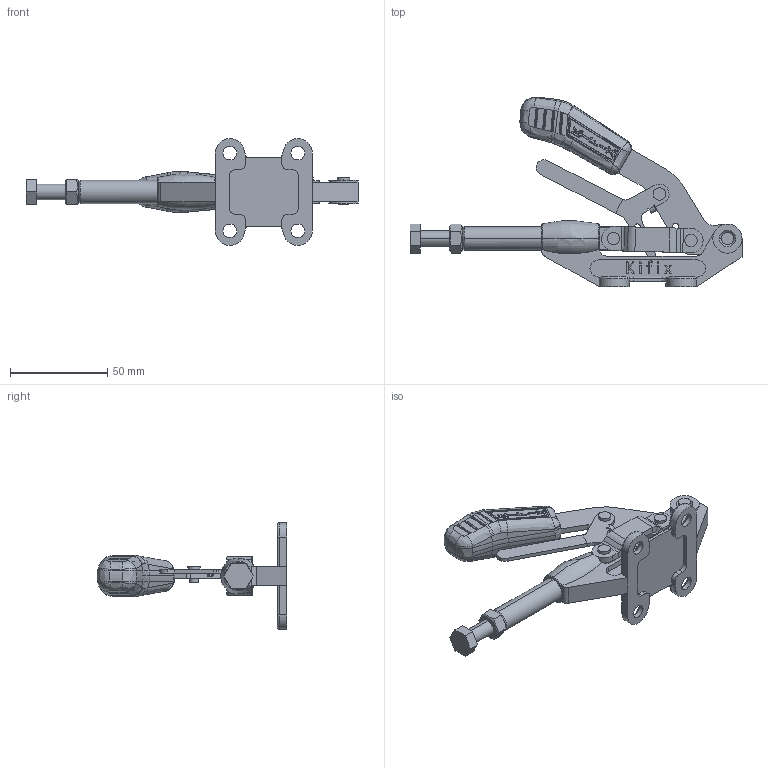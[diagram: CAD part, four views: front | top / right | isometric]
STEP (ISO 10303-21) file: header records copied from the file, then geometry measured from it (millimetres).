
FILE_DESCRIPTION (( 'STEP AP203' ), '1' );
FILE_NAME ('KF-057 TR.STEP', '2019-01-11T11:40:53', ( 'Ricardo' ), ( '' ), 'SwSTEP 2.0', 'SolidWorks 2018', '' );
FILE_SCHEMA (( 'CONFIG_CONTROL_DESIGN' ));
Length unit declared in the file: millimetre
Products named in the file (12): 07.60005; 06.50006; 12.50020; 11.50002; PP-M8; 02.30009; 18.10019; 01.10118; 06.50024; 03.20037; KF-057 TR; 08.10003
Assembly tree (14 placements, depth 3):
  KF-057 TR
    02.30009
    01.10118
    03.20037
    08.10003  x2
    07.60005
    06.50006  x3
    PP-M8
      12.50020
      11.50002
    18.10019
    06.50024
Bounding box: 170.88 x 97.61 x 54.98 mm (x, y, z)
Volume: 59940.7 mm3; surface area: 37641.7 mm2
Topology: 14 solids, 14 shells, 1178 faces, 3007 edges, 1884 vertices
Faces by surface type: plane 371, bspline 363, cylinder 337, sphere 50, cone 38, torus 19
Entity records: 45152 total; most frequent: CARTESIAN_POINT 19767, ORIENTED_EDGE 5730, DIRECTION 3980, EDGE_CURVE 2865, VERTEX_POINT 1810, AXIS2_PLACEMENT_3D 1401, EDGE_LOOP 1187, LINE 1178
